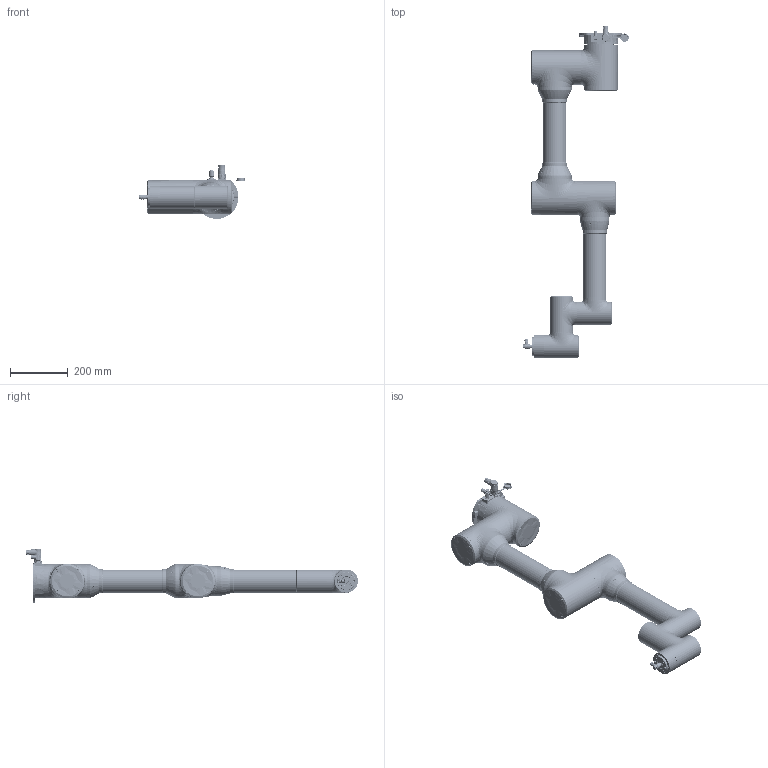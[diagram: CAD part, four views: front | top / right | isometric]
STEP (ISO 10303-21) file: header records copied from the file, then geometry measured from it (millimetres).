
FILE_DESCRIPTION (( 'STEP AP214' ), '1' );
FILE_NAME ('MS6MT-0900-3546.STEP', '2022-01-10T09:10:53', ( '' ), ( '' ), 'SwSTEP 2.0', 'SolidWorks 2017', '' );
FILE_SCHEMA (( 'AUTOMOTIVE_DESIGN' ));
Length unit declared in the file: millimetre
Products named in the file (8): MS6MT-0900-3546; MS6MT-0900-3546-J6_Link; MS6MT-0900-3546-J5_Link; MS6MT-0900-3546-J4_Link; MS6MT-0900-3546-J3_Link; MS6MT-0900-3546-J2_Link; MS6MT-0900-3546-J1_Link; MS6MT-0900-3546-base_link
Assembly tree (7 placements, depth 2):
  MS6MT-0900-3546
    MS6MT-0900-3546-base_link
    MS6MT-0900-3546-J1_Link
    MS6MT-0900-3546-J2_Link
    MS6MT-0900-3546-J3_Link
    MS6MT-0900-3546-J4_Link
    MS6MT-0900-3546-J5_Link
    MS6MT-0900-3546-J6_Link
Bounding box: 364.5 x 1144.69 x 185.3 mm (x, y, z)
Volume: 8446408.3 mm3; surface area: 795440.5 mm2
Topology: 10 solids, 85 shells, 6207 faces, 17283 edges, 11247 vertices
Faces by surface type: cylinder 1939, plane 1662, cone 1358, bspline 911, torus 225, sphere 112
Entity records: 338308 total; most frequent: CARTESIAN_POINT 157222, ORIENTED_EDGE 33988, DIRECTION 23895, EDGE_CURVE 17079, VERTEX_POINT 11269, AXIS2_PLACEMENT_3D 9114, B_SPLINE_CURVE_WITH_KNOTS 7299, EDGE_LOOP 6775
